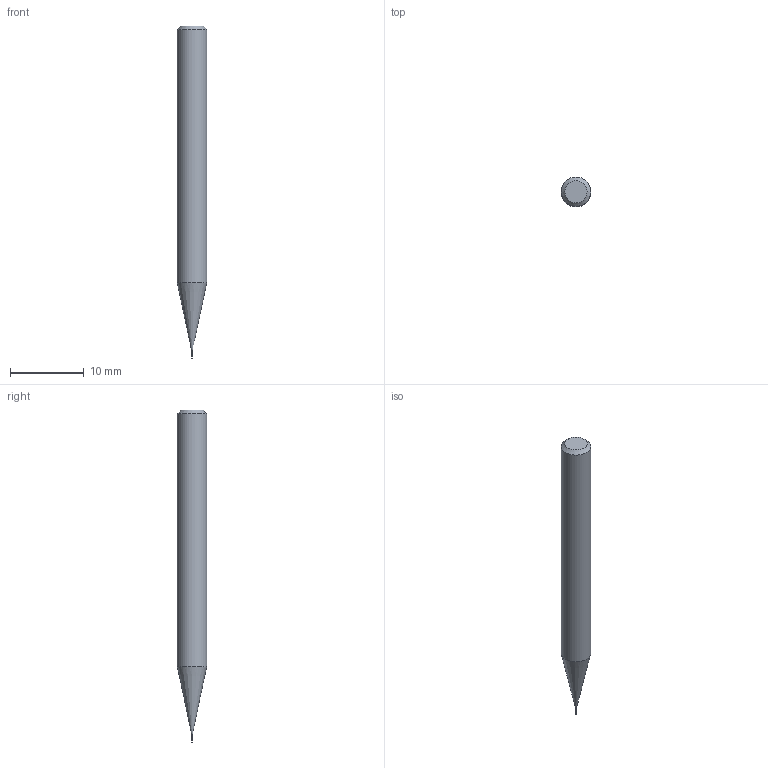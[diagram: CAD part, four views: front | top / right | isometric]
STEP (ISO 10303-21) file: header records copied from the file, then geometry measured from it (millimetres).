
FILE_DESCRIPTION((''),'2;1');
FILE_NAME('C:\Users\nsx150\AppData\Local\Temp\Mastercam 2021\17T8Q8S9EB\TEMP.step','2021-04-21T14:23:14',(''),(''),'STEP Write','Mastercam 2021 ... CNC Software, Inc.','');
FILE_SCHEMA(('AUTOMOTIVE_DESIGN'));
Length unit declared in the file: millimetre
Products named in the file (1): None
Bounding box: 4 x 4 x 45 mm (x, y, z)
Volume: 475.2 mm3; surface area: 506.5 mm2
Topology: 2 solids, 2 shells, 9 faces, 12 edges, 7 vertices
Faces by surface type: plane 4, cylinder 3, cone 2
Full cylindrical faces by diameter (mm): 0.085 x1, 0.1 x1, 4 x1
Entity records: 211 total; most frequent: DIRECTION 36, CARTESIAN_POINT 25, AXIS2_PLACEMENT_3D 18, ORIENTED_EDGE 14, EDGE_LOOP 14, STYLED_ITEM 12, ADVANCED_FACE 9, FACE_BOUND 8
